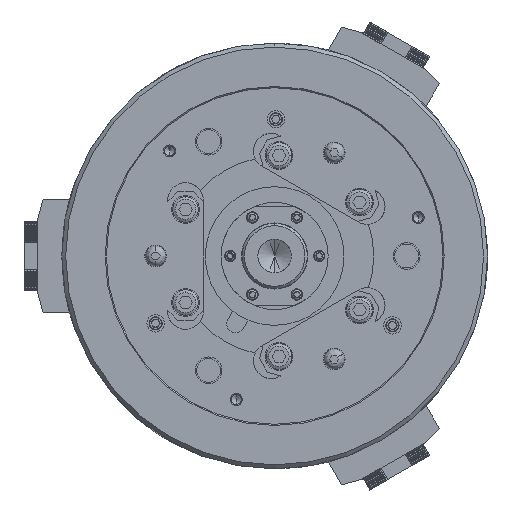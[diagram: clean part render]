
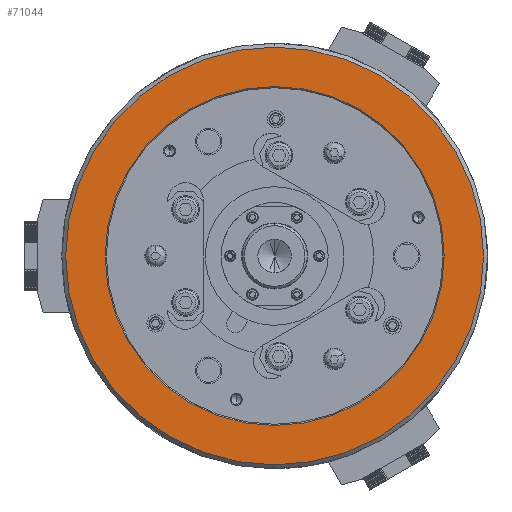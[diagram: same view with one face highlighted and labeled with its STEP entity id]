
A CAD part, left-side view. The second image highlights one B-rep face of the part: STEP entity #71044.
In plain terms, the highlighted planar face has unit normal (-1, 0, 0).
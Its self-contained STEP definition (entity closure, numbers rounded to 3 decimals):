
#813 = CARTESIAN_POINT ( 'NONE',  ( -99., 0., 0. ) ) ;
#5243 = DIRECTION ( 'NONE',  ( 1., 0., 0. ) ) ;
#6046 = CIRCLE ( 'NONE', #60093, 85.6 ) ;
#7923 = DIRECTION ( 'NONE',  ( 0., 0., 1. ) ) ;
#9529 = CARTESIAN_POINT ( 'NONE',  ( -99., 0., 105.5 ) ) ;
#12006 = VERTEX_POINT ( 'NONE', #66050 ) ;
#14355 = AXIS2_PLACEMENT_3D ( 'NONE', #40810, #89040, #47767 ) ;
#17117 = CIRCLE ( 'NONE', #83301, 105.5 ) ;
#17803 = AXIS2_PLACEMENT_3D ( 'NONE', #47200, #5243, #54115 ) ;
#22329 = ORIENTED_EDGE ( 'NONE', *, *, #75549, .F. ) ;
#30014 = CARTESIAN_POINT ( 'NONE',  ( -99., 0., 0. ) ) ;
#30100 = EDGE_CURVE ( 'NONE', #12006, #74132, #69699, .T. ) ;
#36243 = CARTESIAN_POINT ( 'NONE',  ( -99., 0., 0. ) ) ;
#36713 = EDGE_CURVE ( 'NONE', #81262, #63040, #86119, .T. ) ;
#37028 = DIRECTION ( 'NONE',  ( 0., 0., -1. ) ) ;
#38345 = CARTESIAN_POINT ( 'NONE',  ( -99., 0., 85.6 ) ) ;
#38636 = EDGE_LOOP ( 'NONE', ( #54649, #77638 ) ) ;
#40810 = CARTESIAN_POINT ( 'NONE',  ( -99., 52.75, -91.366 ) ) ;
#40972 = EDGE_CURVE ( 'NONE', #74132, #12006, #6046, .T. ) ;
#42329 = ORIENTED_EDGE ( 'NONE', *, *, #36713, .F. ) ;
#43287 = DIRECTION ( 'NONE',  ( 0., 0., -1. ) ) ;
#45546 = FACE_OUTER_BOUND ( 'NONE', #49547, .T. ) ;
#47200 = CARTESIAN_POINT ( 'NONE',  ( -99., 0., 0. ) ) ;
#47767 = DIRECTION ( 'NONE',  ( 0., 0., 1. ) ) ;
#49547 = EDGE_LOOP ( 'NONE', ( #42329, #22329 ) ) ;
#49786 = DIRECTION ( 'NONE',  ( 1., 0., 0. ) ) ;
#54115 = DIRECTION ( 'NONE',  ( 0., 0., 1. ) ) ;
#54649 = ORIENTED_EDGE ( 'NONE', *, *, #40972, .T. ) ;
#60093 = AXIS2_PLACEMENT_3D ( 'NONE', #813, #49786, #7923 ) ;
#63040 = VERTEX_POINT ( 'NONE', #9529 ) ;
#66050 = CARTESIAN_POINT ( 'NONE',  ( -99., 0., -85.6 ) ) ;
#68215 = FACE_BOUND ( 'NONE', #38636, .T. ) ;
#69699 = CIRCLE ( 'NONE', #17803, 85.6 ) ;
#71044 = ADVANCED_FACE ( 'NONE', ( #45546, #68215 ), #75250, .T. ) ;
#73620 = CARTESIAN_POINT ( 'NONE',  ( -99., 0., -105.5 ) ) ;
#74132 = VERTEX_POINT ( 'NONE', #38345 ) ;
#75250 = PLANE ( 'NONE',  #14355 ) ;
#75549 = EDGE_CURVE ( 'NONE', #63040, #81262, #17117, .T. ) ;
#77638 = ORIENTED_EDGE ( 'NONE', *, *, #30100, .T. ) ;
#78490 = DIRECTION ( 'NONE',  ( 1., 0., 0. ) ) ;
#79383 = AXIS2_PLACEMENT_3D ( 'NONE', #30014, #78490, #37028 ) ;
#81262 = VERTEX_POINT ( 'NONE', #73620 ) ;
#83301 = AXIS2_PLACEMENT_3D ( 'NONE', #36243, #84534, #43287 ) ;
#84534 = DIRECTION ( 'NONE',  ( 1., 0., 0. ) ) ;
#86119 = CIRCLE ( 'NONE', #79383, 105.5 ) ;
#89040 = DIRECTION ( 'NONE',  ( -1., 0., 0. ) ) ;
